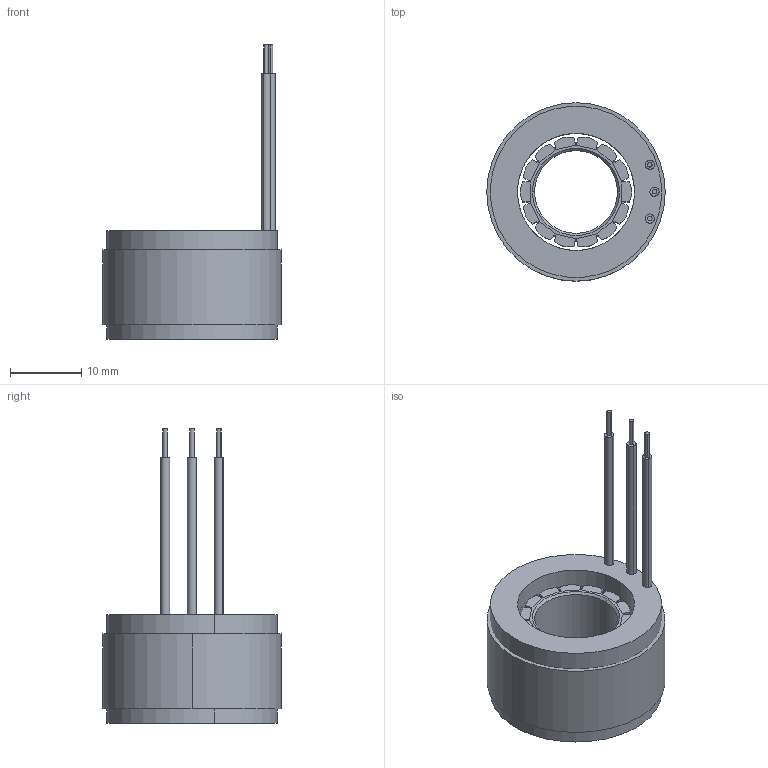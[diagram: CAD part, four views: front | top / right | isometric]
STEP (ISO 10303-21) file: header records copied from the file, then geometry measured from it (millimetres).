
FILE_DESCRIPTION (( 'STEP AP203' ), '1' );
FILE_NAME ('2515µç»ú - ÐÂ.STEP', '2025-02-18T02:58:42', ( '' ), ( '' ), 'SwSTEP 2.0', 'SolidWorks 2023', '' );
FILE_SCHEMA (( 'CONFIG_CONTROL_DESIGN' ));
Length unit declared in the file: millimetre
Products named in the file (1): 2515电机 - 新
Bounding box: 25 x 25 x 41.2 mm (x, y, z)
Surface area: 5460.2 mm2 (no closed solid volume)
Topology: 0 solids, 21 shells, 105 faces, 556 edges, 468 vertices
Faces by surface type: plane 70, cylinder 31, cone 4
Entity records: 5573 total; most frequent: CARTESIAN_POINT 1130, DIRECTION 948, ORIENTED_EDGE 710, EDGE_CURVE 556, VERTEX_POINT 468, VECTOR 376, LINE 376, AXIS2_PLACEMENT_3D 286
